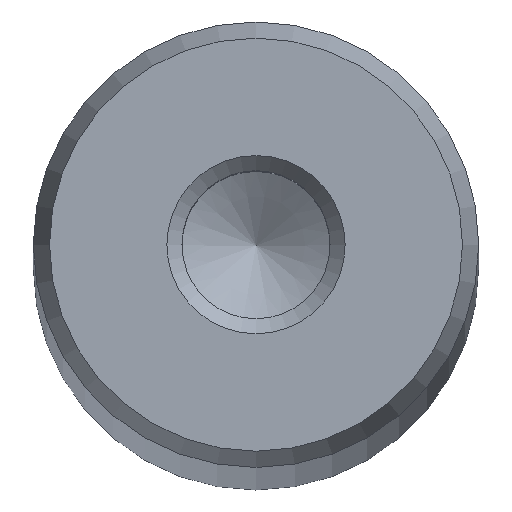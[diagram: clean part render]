
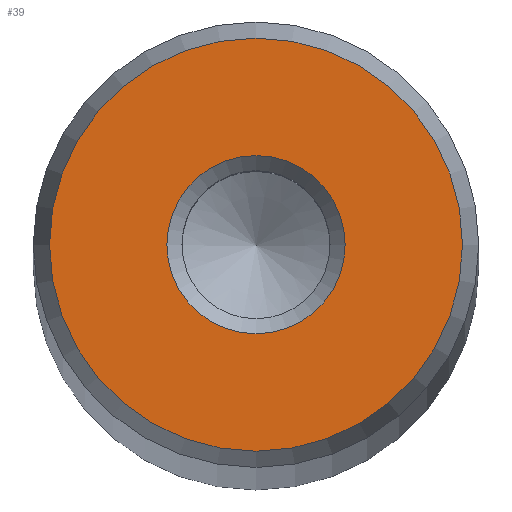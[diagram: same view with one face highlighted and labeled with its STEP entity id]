
A CAD part, top view. The second image highlights one B-rep face of the part: STEP entity #39.
In plain terms, the highlighted planar face has unit normal (0, 0, 1).
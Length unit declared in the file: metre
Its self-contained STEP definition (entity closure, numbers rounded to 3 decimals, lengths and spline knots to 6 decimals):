
#39 = ADVANCED_FACE( '', ( #84, #85 ), #86, .T. );
#84 = FACE_OUTER_BOUND( '', #143, .T. );
#85 = FACE_BOUND( '', #144, .T. );
#86 = PLANE( '', #145 );
#143 = EDGE_LOOP( '', ( #198 ) );
#144 = EDGE_LOOP( '', ( #199 ) );
#145 = AXIS2_PLACEMENT_3D( '', #200, #201, #202 );
#198 = ORIENTED_EDGE( '', *, *, #273, .T. );
#199 = ORIENTED_EDGE( '', *, *, #274, .T. );
#200 = CARTESIAN_POINT( '', ( 0., 0., 0.582 ) );
#201 = DIRECTION( '', ( 0., 0., 1. ) );
#202 = DIRECTION( '', ( 1., 0., 0. ) );
#273 = EDGE_CURVE( '', #302, #302, #303, .T. );
#274 = EDGE_CURVE( '', #304, #304, #305, .T. );
#302 = VERTEX_POINT( '', #339 );
#303 = CIRCLE( '', #340, 0.009272 );
#304 = VERTEX_POINT( '', #341 );
#305 = CIRCLE( '', #342, 0.004 );
#339 = CARTESIAN_POINT( '', ( 0.009272, 0., 0.582 ) );
#340 = AXIS2_PLACEMENT_3D( '', #376, #377, #378 );
#341 = CARTESIAN_POINT( '', ( 0.004, 0., 0.582 ) );
#342 = AXIS2_PLACEMENT_3D( '', #379, #380, #381 );
#376 = CARTESIAN_POINT( '', ( 0., 0., 0.582 ) );
#377 = DIRECTION( '', ( 0., 0., 1. ) );
#378 = DIRECTION( '', ( 1., 0., 0. ) );
#379 = CARTESIAN_POINT( '', ( 0., 0., 0.582 ) );
#380 = DIRECTION( '', ( 0., 0., -1. ) );
#381 = DIRECTION( '', ( 1., 0., 0. ) );
